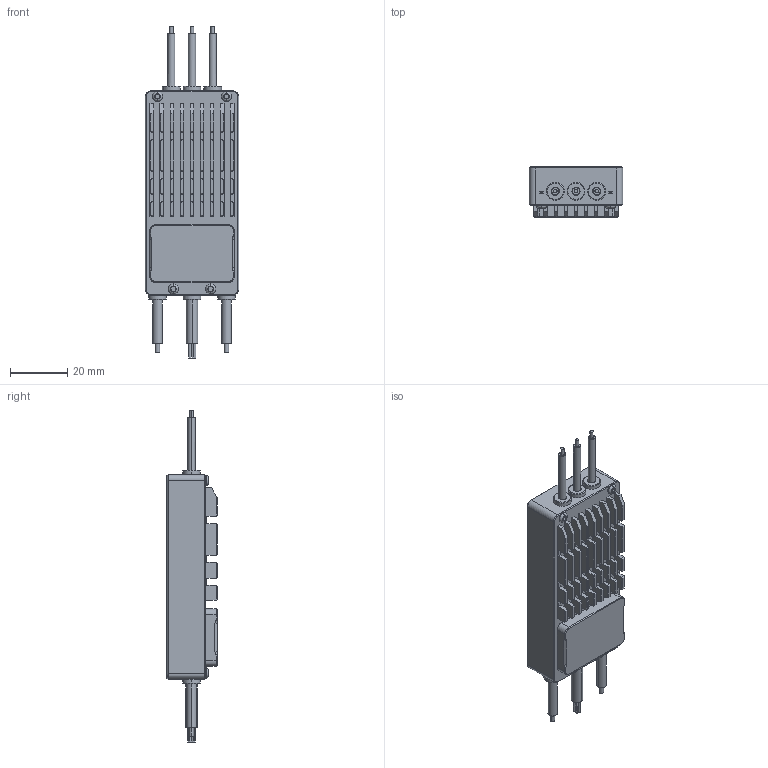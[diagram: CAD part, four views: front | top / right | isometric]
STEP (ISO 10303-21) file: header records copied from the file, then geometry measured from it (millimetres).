
FILE_DESCRIPTION((''),'2;1');
FILE_NAME('MK-16G-4','2023-08-05T14:20:51',('22429'),(''),'CREO PARAMETRIC BY PTC INC, 2021063','CREO PARAMETRIC BY PTC INC, 2021063','');
FILE_SCHEMA(('CONFIG_CONTROL_DESIGN'));
Length unit declared in the file: millimetre
Products named in the file (1): MK-16G-4
Bounding box: 32.5 x 17.4 x 115.5 mm (x, y, z)
Volume: 16503 mm3; surface area: 23727.6 mm2
Topology: 1 solids, 3 shells, 1139 faces, 3093 edges, 2003 vertices
Faces by surface type: plane 589, cylinder 415, cone 52, bspline 48, torus 35
Entity records: 47552 total; most frequent: CARTESIAN_POINT 19276, ORIENTED_EDGE 6170, DIRECTION 5456, EDGE_CURVE 3085, VERTEX_POINT 2003, VECTOR 1930, LINE 1930, AXIS2_PLACEMENT_3D 1763
